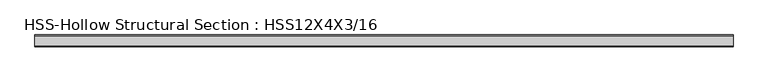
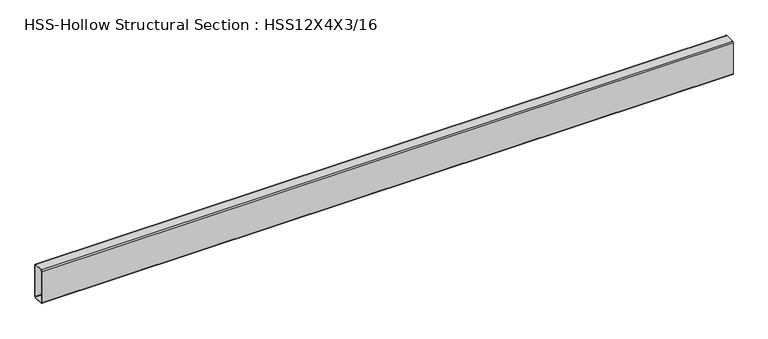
"""IFC4 building model written with IfcOpenShell, lengths in millimetres: beam geometry, HSS-Hollow Structural Section : HSS12X4X3/16."""

from ifc_helpers import new_model, si_unit, point, frame, frame_2d, origin, place, context, project, spatial, polyline, circle_curve, trimmed, segment, composite_curve, outline, extrude, source, transform, mapped, element, save


def hss_hollow_structural_section_hss12x4x3_16_6b42a8eb(model_context):
    return source(origin(), model_context, "Body", "SweptSolid", [
        extrude(outline(composite_curve([segment(polyline([(50.8, 143.5608), (50.8, -143.5608)]), True, "CONTINUOUS"), segment(trimmed(circle_curve(frame_2d((41.9608, -143.5608)), 8.8392), [point((50.8, -143.5608))], [point((41.9608, -152.4))], False, "CARTESIAN"), True, "CONTINUOUS"), segment(polyline([(41.9608, -152.4), (-41.9608, -152.4)]), True, "CONTINUOUS"), segment(trimmed(circle_curve(frame_2d((-41.9608, -143.5608)), 8.8392), [point((-41.9608, -152.4))], [point((-50.8, -143.5608))], False, "CARTESIAN"), True, "CONTINUOUS"), segment(polyline([(-50.8, -143.5608), (-50.8, 143.5608)]), True, "CONTINUOUS"), segment(trimmed(circle_curve(frame_2d((-41.9608, 143.5608)), 8.8392), [point((-50.8, 143.5608))], [point((-41.9608, 152.4))], False, "CARTESIAN"), True, "CONTINUOUS"), segment(polyline([(-41.9608, 152.4), (41.9608, 152.4)]), True, "CONTINUOUS"), segment(trimmed(circle_curve(frame_2d((41.9608, 143.5608)), 8.8392), [point((41.9608, 152.4))], [point((50.8, 143.5608))], False, "CARTESIAN"), True, "CONTINUOUS")], self_intersect=False), holes=[composite_curve([segment(trimmed(circle_curve(frame_2d((-41.9608, 143.5608)), 4.4196), [point((-41.9608, 147.9804))], [point((-46.3804, 143.5608))], True, "CARTESIAN"), True, "CONTINUOUS"), segment(polyline([(-46.3804, 143.5608), (-46.3804, -143.5608)]), True, "CONTINUOUS"), segment(trimmed(circle_curve(frame_2d((-41.9608, -143.5608)), 4.4196), [point((-46.3804, -143.5608))], [point((-41.9608, -147.9804))], True, "CARTESIAN"), True, "CONTINUOUS"), segment(polyline([(-41.9608, -147.9804), (41.9608, -147.9804)]), True, "CONTINUOUS"), segment(trimmed(circle_curve(frame_2d((41.9608, -143.5608)), 4.4196), [point((41.9608, -147.9804))], [point((46.3804, -143.5608))], True, "CARTESIAN"), True, "CONTINUOUS"), segment(polyline([(46.3804, -143.5608), (46.3804, 143.5608)]), True, "CONTINUOUS"), segment(trimmed(circle_curve(frame_2d((41.9608, 143.5608)), 4.4196), [point((46.3804, 143.5608))], [point((41.9608, 147.9804))], True, "CARTESIAN"), True, "CONTINUOUS"), segment(polyline([(41.9608, 147.9804), (-41.9608, 147.9804)]), True, "CONTINUOUS")], self_intersect=False)]), frame((-3025.2520733, 0.0, 0.0), z_axis=(1.0, 0.0, 0.0), x_axis=(0.0, 1.0, 0.0)), (0.0, 0.0, 1.0), 6024.0154025),
    ])


if __name__ == "__main__":
    model = new_model("IFC4")
    model_context = context("Model", 3, world=origin())
    ifc_project = project(units=[si_unit("LENGTHUNIT", "METRE", prefix="MILLI")], contexts=[model_context])
    site = spatial("IfcSite", under=ifc_project)
    building = spatial("IfcBuilding", under=site)
    placement = place(None, origin())
    hss_hollow_structural_section_hss12x4x3_16_shape = hss_hollow_structural_section_hss12x4x3_16_6b42a8eb(model_context)
    element("IfcBeam", 1, ObjectType="HSS-Hollow Structural Section : HSS12X4X3/16", at=placement, inside=building, context=model_context, shape_type="MappedRepresentation", body=[
        mapped(hss_hollow_structural_section_hss12x4x3_16_shape, transform((0.0, 0.0, 0.0), x_axis=(1.0, 0.0, 0.0), y_axis=(0.0, 1.0, 0.0), z_axis=(0.0, 0.0, 1.0))),
    ])
    save(model, "model.ifc")
